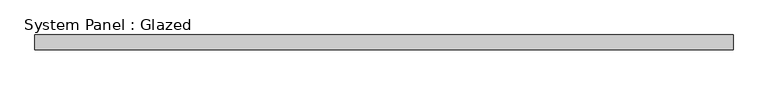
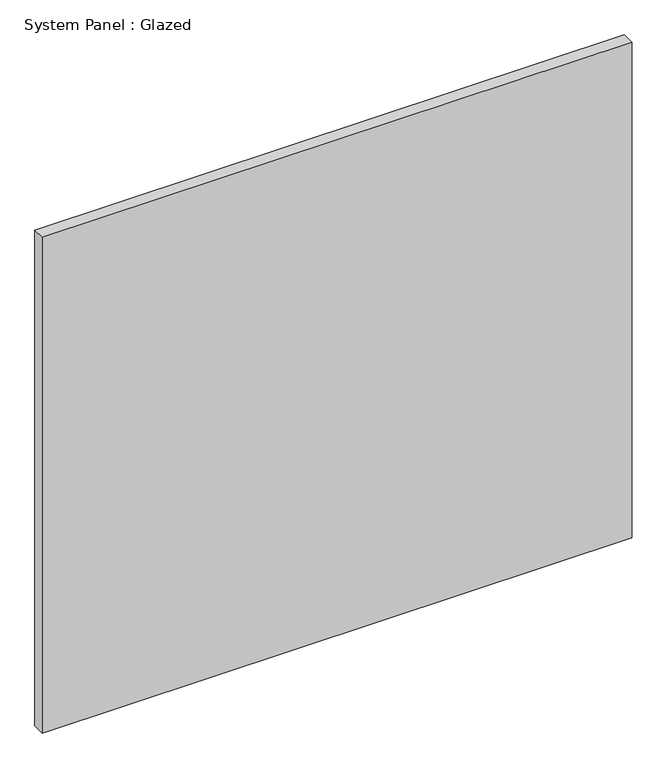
"""IFC4 building model written with IfcOpenShell, lengths in millimetres: plate geometry, System Panel : Glazed."""

import ifcopenshell
import ifcopenshell.guid

model = None  # the IFC model being written
_history = None  # IfcOwnerHistory: only IFC2X3 demands one
_inside = {}  # id of a spatial element -> (the spatial element, [elements in it])
_under = {}  # id of a project, library or spatial element -> (it, [spatial elements below it])
_declared = {}  # id of a project -> (the project, [libraries it declares])
_typed = {}  # id of a type object -> (the type object, [elements of that type])
_made_of = {}  # id of a material, layer set ... -> (it, [elements and type objects made of it])


def new_model(schema):
    """Start an empty IFC model of exactly this schema.

    Asked for "IFC4X3", IfcOpenShell would pick the latest addendum, in which some entities
    have other attributes; the version numbers below select the first issue.
    IFC2X3 requires an IfcOwnerHistory on every rooted entity: one is made here for all.
    """
    global model, _history
    if schema == "IFC4X3":
        model = ifcopenshell.file(schema_version=(4, 3, 0, 0))
    else:
        model = ifcopenshell.file(schema=schema)
    _inside.clear()
    _under.clear()
    _declared.clear()
    _typed.clear()
    _made_of.clear()
    _history = None
    if model.schema == "IFC2X3":
        org = make("IfcOrganization", Name="unknown")
        user = make(
            "IfcPersonAndOrganization",
            ThePerson=make("IfcPerson", FamilyName="unknown"),
            TheOrganization=org,
        )
        app = make(
            "IfcApplication",
            ApplicationDeveloper=org,
            Version="unknown",
            ApplicationFullName="unknown",
            ApplicationIdentifier="unknown",
        )
        _history = make(
            "IfcOwnerHistory",
            OwningUser=user,
            OwningApplication=app,
            ChangeAction="ADDED",
            CreationDate=0,
        )
    return model


def make(cls, **values):
    """One entity of the class cls with the attributes given. An attribute that is None is left unset."""
    return model.create_entity(
        cls, **{name: value for name, value in values.items() if value is not None}
    )


def rooted(cls, **values):
    """An entity with a GlobalId (a new one), such as an element, a storey or a relation."""
    return make(cls, GlobalId=ifcopenshell.guid.new(), OwnerHistory=_history, **values)


def si_unit(unit_type, name, prefix=None):
    """IfcSIUnit, for example si_unit("LENGTHUNIT", "METRE", prefix="MILLI")."""
    return make("IfcSIUnit", UnitType=unit_type, Prefix=prefix, Name=name)


def assignment(units):
    """IfcUnitAssignment: the units of a project."""
    return None if units is None else make("IfcUnitAssignment", Units=units)


def point(xyz):
    """IfcCartesianPoint."""
    return None if xyz is None else make("IfcCartesianPoint", Coordinates=xyz)


def direction(xyz):
    """IfcDirection."""
    return None if xyz is None else make("IfcDirection", DirectionRatios=xyz)


def frame(location, z_axis=None, x_axis=None):
    """IfcAxis2Placement3D, a coordinate frame: its origin and axes. An axis left out is left unset."""
    return make(
        "IfcAxis2Placement3D",
        Location=point(location),
        Axis=direction(z_axis),
        RefDirection=direction(x_axis),
    )


def origin():
    """The frame at (0, 0, 0) with its axes left unset."""
    return frame((0.0, 0.0, 0.0))


def origin_with_axes():
    """The frame at (0, 0, 0) with the z axis (0, 0, 1) and the x axis (1, 0, 0) written out."""
    return frame((0.0, 0.0, 0.0), z_axis=(0.0, 0.0, 1.0), x_axis=(1.0, 0.0, 0.0))


def place(relative_to, where):
    """IfcLocalPlacement: puts the frame where relative to a parent placement (None: the world)."""
    return make(
        "IfcLocalPlacement", PlacementRelTo=relative_to, RelativePlacement=where
    )


def context(
    kind, dimensions, precision=None, world=None, true_north=None, identifier=None
):
    """IfcGeometricRepresentationContext, for example the 3D "Model" context."""
    return make(
        "IfcGeometricRepresentationContext",
        ContextIdentifier=identifier,
        ContextType=kind,
        CoordinateSpaceDimension=dimensions,
        Precision=precision,
        WorldCoordinateSystem=world,
        TrueNorth=true_north,
    )


def project(units=None, contexts=None):
    """IfcProject with its units and contexts."""
    return rooted(
        "IfcProject",
        Name="project",
        RepresentationContexts=contexts,
        UnitsInContext=assignment(units),
    )


def spatial(cls, under=None, at=None, **own):
    """A site, building, storey or space (cls), placed at a placement, below another one or the project."""
    s = rooted(cls, ObjectPlacement=at, **own)
    if under is not None:
        _under.setdefault(under.id(), (under, []))[1].append(s)
    return s


def polyline(points):
    """IfcPolyline through the points."""
    return make("IfcPolyline", Points=[point(p) for p in points])


def outline(outer, holes=None, kind="AREA"):
    """IfcArbitraryClosedProfileDef: a profile drawn as a closed curve; with holes, ...WithVoids."""
    if holes is None:
        return make("IfcArbitraryClosedProfileDef", ProfileType=kind, OuterCurve=outer)
    return make(
        "IfcArbitraryProfileDefWithVoids",
        ProfileType=kind,
        OuterCurve=outer,
        InnerCurves=holes,
    )


def extrude(swept, where, along, depth):
    """IfcExtrudedAreaSolid: the profile swept, set in the frame where, extruded along a direction by depth."""
    return make(
        "IfcExtrudedAreaSolid",
        SweptArea=swept,
        Position=where,
        ExtrudedDirection=direction(along),
        Depth=depth,
    )


def shape(context_of_items, identifier, shape_type, items):
    """IfcShapeRepresentation: the items that make up one representation, for example the "Body"."""
    return make(
        "IfcShapeRepresentation",
        ContextOfItems=context_of_items,
        RepresentationIdentifier=identifier,
        RepresentationType=shape_type,
        Items=items,
    )


def source(mapping_origin, context_of_items, identifier, shape_type, items):
    """IfcRepresentationMap: a shape defined once, which mapped items show again and again."""
    return make(
        "IfcRepresentationMap",
        MappingOrigin=mapping_origin,
        MappedRepresentation=shape(context_of_items, identifier, shape_type, items),
    )


def transform(
    local_origin,
    x_axis=None,
    y_axis=None,
    z_axis=None,
    scale=None,
    scale2=None,
    scale3=None,
    uniform=True,
):
    """IfcCartesianTransformationOperator3D, or its non-uniform kind. x_axis, y_axis, z_axis: its Axis1, 2, 3."""
    if uniform:
        return make(
            "IfcCartesianTransformationOperator3D",
            Axis1=direction(x_axis),
            Axis2=direction(y_axis),
            LocalOrigin=point(local_origin),
            Scale=scale,
            Axis3=direction(z_axis),
        )
    return make(
        "IfcCartesianTransformationOperator3DnonUniform",
        Axis1=direction(x_axis),
        Axis2=direction(y_axis),
        LocalOrigin=point(local_origin),
        Scale=scale,
        Axis3=direction(z_axis),
        Scale2=scale2,
        Scale3=scale3,
    )


def mapped(mapping_source, mapping_target):
    """IfcMappedItem: shows the shape of a source again, moved by a transform."""
    return make(
        "IfcMappedItem", MappingSource=mapping_source, MappingTarget=mapping_target
    )


def made_of(thing, what):
    """Note that an element or type object is made of a material, layer set ...; save() writes the relation."""
    if what is not None:
        _made_of.setdefault(what.id(), (what, []))[1].append(thing)
    return thing


def element(
    cls,
    number,
    at=None,
    inside=None,
    cuts=None,
    type_object=None,
    material=None,
    context=None,
    identifier="Body",
    shape_type=None,
    held_by="IfcProductDefinitionShape",
    body=None,
    shapes=None,
    **own,
):
    """One element of the class cls, such as IfcWall. Its Tag is "e" and its number.

    at: its placement. inside: the storey or other place that contains it. cuts: it is an
    opening in that element (IfcRelVoidsElement). A single representation is given by context,
    identifier, shape_type and body (its items); several are given by shapes. held_by: the class
    of the entity that holds the representations. save() writes the other relations.
    """
    e = rooted(cls, Tag="e%d" % number, ObjectPlacement=at, **own)
    if body is not None:
        shapes = [shape(context, identifier, shape_type, body)]
    if shapes is not None:
        e.Representation = make(held_by, Representations=shapes)
    if inside is not None:
        _inside.setdefault(inside.id(), (inside, []))[1].append(e)
    if cuts is not None:
        rooted(
            "IfcRelVoidsElement", RelatingBuildingElement=cuts, RelatedOpeningElement=e
        )
    if type_object is not None:
        _typed.setdefault(type_object.id(), (type_object, []))[1].append(e)
    return made_of(e, material)


def aggregate(whole, parts):
    """IfcRelAggregates: a whole, such as a stair, and the parts it consists of."""
    return rooted("IfcRelAggregates", RelatingObject=whole, RelatedObjects=parts)


def save(model, path):
    """Write the relations noted so far, then the file.

    IfcRelAggregates (storeys below a building ...), IfcRelContainedInSpatialStructure (elements
    in a storey), IfcRelDefinesByType, IfcRelAssociatesMaterial and IfcRelDeclares: one each for
    every whole, place, type object, material and project.
    """
    for whole, parts in _under.values():
        aggregate(whole, parts)
    for where, things in _inside.values():
        rooted(
            "IfcRelContainedInSpatialStructure",
            RelatedElements=things,
            RelatingStructure=where,
        )
    for kind, things in _typed.values():
        rooted("IfcRelDefinesByType", RelatedObjects=things, RelatingType=kind)
    for what, things in _made_of.values():
        rooted("IfcRelAssociatesMaterial", RelatedObjects=things, RelatingMaterial=what)
    for by, libraries in _declared.values():
        rooted("IfcRelDeclares", RelatingContext=by, RelatedDefinitions=libraries)
    model.write(path)


def system_panel_glazed_07bf58b3(model_context):
    return source(origin(), model_context, "Body", "SweptSolid", [
        extrude(outline(polyline([(600.1804533, 19.05), (-600.1804533, 19.05), (-600.1804533, 44.45), (600.1804533, 44.45), (600.1804533, 19.05)])), origin_with_axes(), (0.0, 0.0, 1.0), 1066.0767085),
    ])


if __name__ == "__main__":
    model = new_model("IFC4")
    model_context = context("Model", 3, world=origin())
    ifc_project = project(units=[si_unit("LENGTHUNIT", "METRE", prefix="MILLI")], contexts=[model_context])
    site = spatial("IfcSite", under=ifc_project)
    building = spatial("IfcBuilding", under=site)
    placement = place(None, origin())
    system_panel_glazed_shape = system_panel_glazed_07bf58b3(model_context)
    element("IfcPlate", 1, ObjectType="System Panel : Glazed", at=placement, inside=building, context=model_context, shape_type="MappedRepresentation", body=[
        mapped(system_panel_glazed_shape, transform((0.0, 0.0, 0.0), x_axis=(1.0, 0.0, 0.0), y_axis=(0.0, 1.0, 0.0), z_axis=(0.0, 0.0, 1.0))),
    ])
    save(model, "model.ifc")
